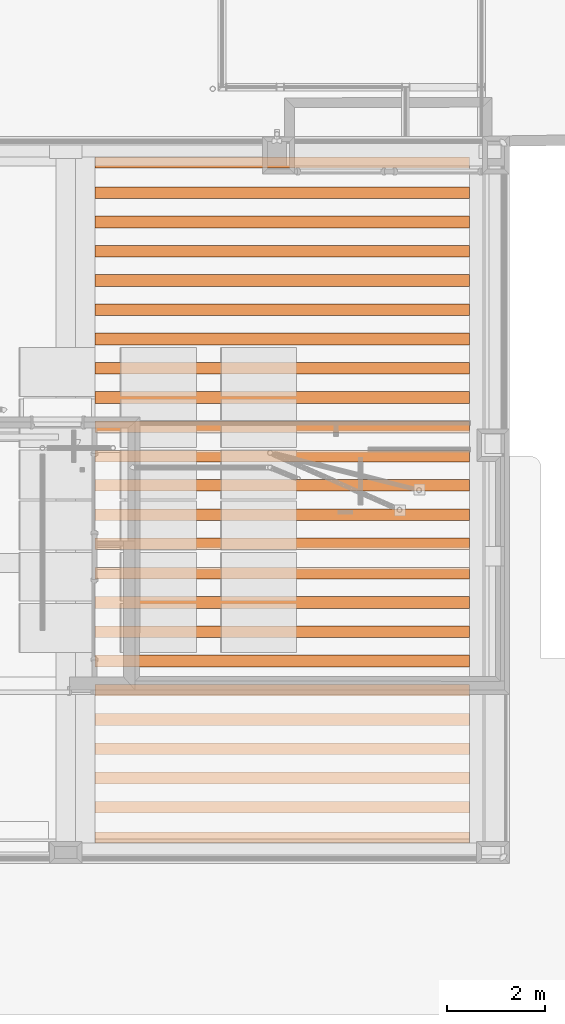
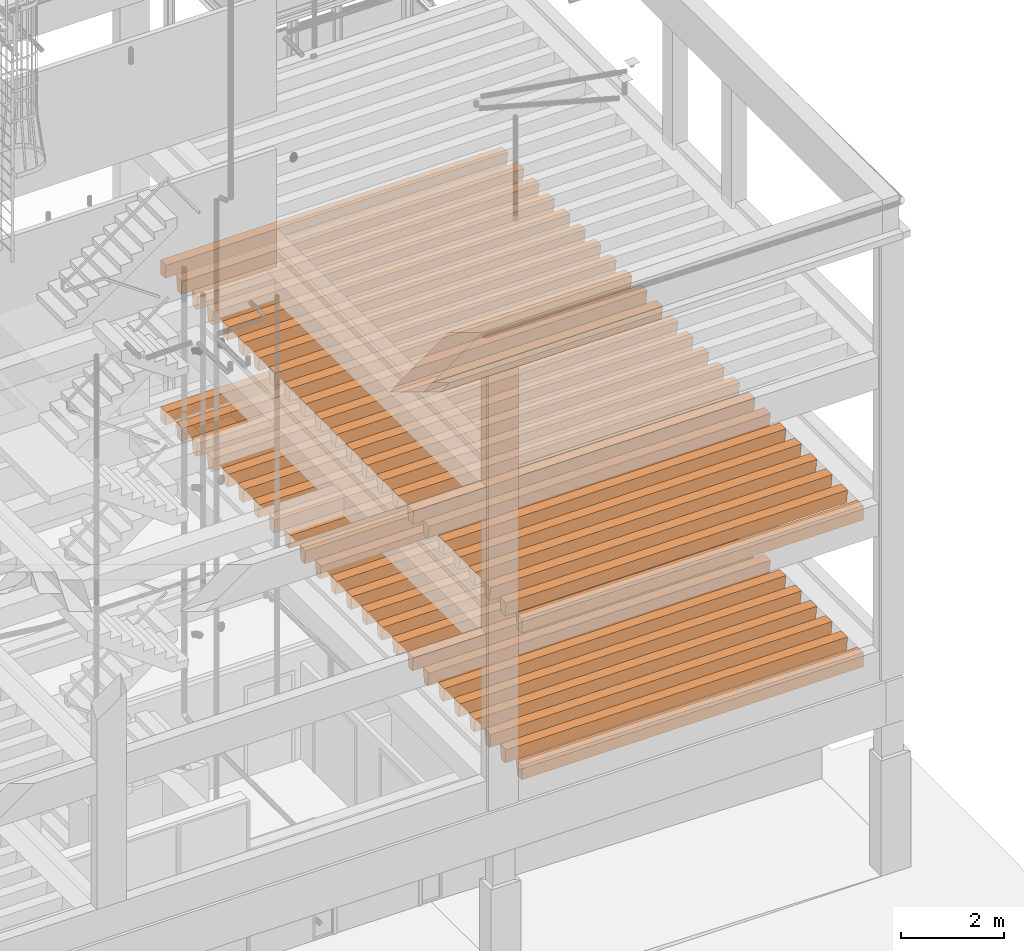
# One storey, part 105 of 106: 2 proxies.
"""IFC2X3 building model written with IfcOpenShell, lengths in metres."""

from ifc_helpers import new_model, entity, si_unit, converted_unit, derived_unit, money_unit, direction, frame, origin_with_axes, place, context, subcontext, project, spatial, faceted_brep, element, save


model = new_model("IFC2X3")

# Units and contexts
model_context = context("Model", 3, precision=1e-05, world=origin_with_axes(), true_north=direction((0.0, 1.0)))
body_context = subcontext(model_context, "Body", "Model", "MODEL_VIEW", scale=1.0)
ifc_project = project(units=[si_unit("LENGTHUNIT", "METRE"), si_unit("AREAUNIT", "SQUARE_METRE"), si_unit("VOLUMEUNIT", "CUBIC_METRE"), si_unit("ABSORBEDDOSEUNIT", "GRAY"), si_unit("AMOUNTOFSUBSTANCEUNIT", "MOLE"), si_unit("DOSEEQUIVALENTUNIT", "SIEVERT"), si_unit("ELECTRICCAPACITANCEUNIT", "FARAD"), si_unit("ELECTRICCHARGEUNIT", "COULOMB"), si_unit("ELECTRICCONDUCTANCEUNIT", "SIEMENS"), si_unit("ELECTRICCURRENTUNIT", "AMPERE"), si_unit("ELECTRICRESISTANCEUNIT", "OHM"), si_unit("ELECTRICVOLTAGEUNIT", "VOLT"), si_unit("ENERGYUNIT", "JOULE"), si_unit("FORCEUNIT", "NEWTON"), si_unit("FREQUENCYUNIT", "HERTZ"), si_unit("ILLUMINANCEUNIT", "LUX"), si_unit("INDUCTANCEUNIT", "HENRY"), si_unit("LUMINOUSFLUXUNIT", "LUMEN"), si_unit("LUMINOUSINTENSITYUNIT", "CANDELA"), si_unit("MAGNETICFLUXDENSITYUNIT", "TESLA"), si_unit("MAGNETICFLUXUNIT", "WEBER"), si_unit("MASSUNIT", "GRAM"), converted_unit("PLANEANGLEUNIT", "degree", entity("IfcReal", 0.0174532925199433), si_unit("PLANEANGLEUNIT", "RADIAN"), dimensions=[0, 0, 0, 0, 0, 0, 0]), si_unit("POWERUNIT", "WATT"), si_unit("PRESSUREUNIT", "PASCAL"), si_unit("RADIOACTIVITYUNIT", "BECQUEREL"), si_unit("SOLIDANGLEUNIT", "STERADIAN"), si_unit("THERMODYNAMICTEMPERATUREUNIT", "KELVIN"), si_unit("TIMEUNIT", "SECOND"), derived_unit("ACCELERATIONUNIT", [(si_unit("LENGTHUNIT", "METRE"), 1), (si_unit("TIMEUNIT", "SECOND"), -2)]), derived_unit("ANGULARVELOCITYUNIT", [(converted_unit("PLANEANGLEUNIT", "degree", entity("IfcReal", 0.0174532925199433), si_unit("PLANEANGLEUNIT", "RADIAN"), dimensions=[0, 0, 0, 0, 0, 0, 0]), 1), (si_unit("TIMEUNIT", "SECOND"), -1)]), derived_unit("CURVATUREUNIT", [(converted_unit("PLANEANGLEUNIT", "degree", entity("IfcReal", 0.0174532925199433), si_unit("PLANEANGLEUNIT", "RADIAN"), dimensions=[0, 0, 0, 0, 0, 0, 0]), 1), (si_unit("LENGTHUNIT", "METRE"), -1)]), derived_unit("DYNAMICVISCOSITYUNIT", [(si_unit("PRESSUREUNIT", "PASCAL"), 1), (si_unit("TIMEUNIT", "SECOND"), 1)]), derived_unit("HEATFLUXDENSITYUNIT", [(si_unit("POWERUNIT", "WATT"), 1), (si_unit("LENGTHUNIT", "METRE"), -2)]), derived_unit("HEATINGVALUEUNIT", [(si_unit("ENERGYUNIT", "JOULE"), 1), (si_unit("MASSUNIT", "GRAM"), -1)]), derived_unit("INTEGERCOUNTRATEUNIT", [(si_unit("TIMEUNIT", "SECOND"), -1)]), derived_unit("IONCONCENTRATIONUNIT", [(si_unit("MASSUNIT", "GRAM"), 1), (si_unit("VOLUMEUNIT", "CUBIC_METRE"), -1)]), derived_unit("ISOTHERMALMOISTURECAPACITYUNIT", [(si_unit("VOLUMEUNIT", "CUBIC_METRE"), 1), (si_unit("MASSUNIT", "GRAM"), -1)]), derived_unit("KINEMATICVISCOSITYUNIT", [(si_unit("AREAUNIT", "SQUARE_METRE"), 1), (si_unit("TIMEUNIT", "SECOND"), -1)]), derived_unit("LINEARFORCEUNIT", [(si_unit("FORCEUNIT", "NEWTON"), 1), (si_unit("LENGTHUNIT", "METRE"), -1)]), derived_unit("LINEARMOMENTUNIT", [(si_unit("FORCEUNIT", "NEWTON"), 1), (si_unit("LENGTHUNIT", "METRE"), -1)]), derived_unit("LINEARSTIFFNESSUNIT", [(si_unit("FORCEUNIT", "NEWTON"), 1), (si_unit("LENGTHUNIT", "METRE"), -1)]), derived_unit("LINEARVELOCITYUNIT", [(si_unit("LENGTHUNIT", "METRE"), 1), (si_unit("TIMEUNIT", "SECOND"), -1)]), derived_unit("LUMINOUSINTENSITYDISTRIBUTIONUNIT", [(si_unit("LUMINOUSINTENSITYUNIT", "CANDELA"), 1), (si_unit("LUMINOUSFLUXUNIT", "LUMEN"), -1)]), derived_unit("MASSDENSITYUNIT", [(si_unit("MASSUNIT", "GRAM"), 1), (si_unit("VOLUMEUNIT", "CUBIC_METRE"), -1)]), derived_unit("MASSFLOWRATEUNIT", [(si_unit("MASSUNIT", "GRAM"), 1), (si_unit("TIMEUNIT", "SECOND"), -1)]), derived_unit("MASSPERLENGTHUNIT", [(si_unit("MASSUNIT", "GRAM"), 1), (si_unit("LENGTHUNIT", "METRE"), -1)]), derived_unit("MODULUSOFELASTICITYUNIT", [(si_unit("FORCEUNIT", "NEWTON"), 1), (si_unit("AREAUNIT", "SQUARE_METRE"), -1)]), derived_unit("MODULUSOFLINEARSUBGRADEREACTIONUNIT", [(si_unit("FORCEUNIT", "NEWTON"), 1), (si_unit("LENGTHUNIT", "METRE"), -2)]), derived_unit("MODULUSOFROTATIONALSUBGRADEREACTIONUNIT", [(si_unit("FORCEUNIT", "NEWTON"), 1), (si_unit("LENGTHUNIT", "METRE"), 1)]), derived_unit("MODULUSOFSUBGRADEREACTIONUNIT", [(si_unit("FORCEUNIT", "NEWTON"), 1), (si_unit("VOLUMEUNIT", "CUBIC_METRE"), -1)]), derived_unit("MOISTUREDIFFUSIVITYUNIT", [(si_unit("VOLUMEUNIT", "CUBIC_METRE"), 1), (si_unit("TIMEUNIT", "SECOND"), -1)]), derived_unit("MOLECULARWEIGHTUNIT", [(si_unit("MASSUNIT", "GRAM"), 1), (si_unit("AMOUNTOFSUBSTANCEUNIT", "MOLE"), -1)]), derived_unit("PLANARFORCEUNIT", [(si_unit("FORCEUNIT", "NEWTON"), 1), (si_unit("LENGTHUNIT", "METRE"), -2)]), derived_unit("ROTATIONALFREQUENCYUNIT", [(si_unit("TIMEUNIT", "SECOND"), -1)]), derived_unit("ROTATIONALMASSUNIT", [(si_unit("MASSUNIT", "GRAM"), 1), (si_unit("LENGTHUNIT", "METRE"), 2)]), derived_unit("ROTATIONALSTIFFNESSUNIT", [(si_unit("FORCEUNIT", "NEWTON"), 1), (si_unit("LENGTHUNIT", "METRE"), 1), (converted_unit("PLANEANGLEUNIT", "degree", entity("IfcReal", 0.0174532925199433), si_unit("PLANEANGLEUNIT", "RADIAN"), dimensions=[0, 0, 0, 0, 0, 0, 0]), -1)]), derived_unit("SECTIONAREAINTEGRALUNIT", [(si_unit("LENGTHUNIT", "METRE"), 5)]), derived_unit("SECTIONMODULUSUNIT", [(si_unit("LENGTHUNIT", "METRE"), 3)]), derived_unit("SHEARMODULUSUNIT", [(si_unit("FORCEUNIT", "NEWTON"), 1), (si_unit("AREAUNIT", "SQUARE_METRE"), -1)]), derived_unit("SOUNDPOWERUNIT", [(si_unit("ENERGYUNIT", "JOULE"), 1), (si_unit("TIMEUNIT", "SECOND"), -1)]), derived_unit("SPECIFICHEATCAPACITYUNIT", [(si_unit("FORCEUNIT", "NEWTON"), 1), (si_unit("MASSUNIT", "GRAM"), -1), (si_unit("THERMODYNAMICTEMPERATUREUNIT", "KELVIN"), -1)]), derived_unit("TEMPERATUREGRADIENTUNIT", [(si_unit("THERMODYNAMICTEMPERATUREUNIT", "KELVIN"), 1), (si_unit("LENGTHUNIT", "METRE"), -1)]), derived_unit("THERMALADMITTANCEUNIT", [(si_unit("POWERUNIT", "WATT"), 1), (si_unit("AREAUNIT", "SQUARE_METRE"), -1), (si_unit("THERMODYNAMICTEMPERATUREUNIT", "KELVIN"), -1)]), derived_unit("THERMALCONDUCTANCEUNIT", [(si_unit("POWERUNIT", "WATT"), 1), (si_unit("LENGTHUNIT", "METRE"), -1), (si_unit("THERMODYNAMICTEMPERATUREUNIT", "KELVIN"), -1)]), derived_unit("THERMALEXPANSIONCOEFFICIENTUNIT", [(si_unit("THERMODYNAMICTEMPERATUREUNIT", "KELVIN"), -1)]), derived_unit("THERMALRESISTANCEUNIT", [(si_unit("AREAUNIT", "SQUARE_METRE"), 1), (si_unit("POWERUNIT", "WATT"), -1)]), derived_unit("THERMALTRANSMITTANCEUNIT", [(si_unit("POWERUNIT", "WATT"), 1), (si_unit("AREAUNIT", "SQUARE_METRE"), -1), (si_unit("THERMODYNAMICTEMPERATUREUNIT", "KELVIN"), -1)]), derived_unit("TORQUEUNIT", [(si_unit("FORCEUNIT", "NEWTON"), 1), (si_unit("LENGTHUNIT", "METRE"), 1)]), derived_unit("VAPORPERMEABILITYUNIT", [(si_unit("MASSUNIT", "GRAM"), 1), (si_unit("TIMEUNIT", "SECOND"), -1)]), derived_unit("VOLUMETRICFLOWRATEUNIT", [(si_unit("VOLUMEUNIT", "CUBIC_METRE"), 1), (si_unit("TIMEUNIT", "SECOND"), -1)]), derived_unit("WARPINGCONSTANTUNIT", [(si_unit("LENGTHUNIT", "METRE"), 6)]), derived_unit("WARPINGMOMENTUNIT", [(si_unit("FORCEUNIT", "NEWTON"), 1), (si_unit("LENGTHUNIT", "METRE"), 2)]), money_unit("GBP")], contexts=[model_context])

# Site, building, storey
site_placement = place(None, origin_with_axes())
site = spatial("IfcSite", under=ifc_project, at=site_placement, Name="Site", CompositionType="ELEMENT")
building_placement = place(site_placement, origin_with_axes())
building = spatial("IfcBuilding", under=site, at=building_placement, Name="Building01", CompositionType="ELEMENT")
storey_placement = place(building_placement, origin_with_axes())
storey = spatial("IfcBuildingStorey", under=building, at=storey_placement, Name="GF", CompositionType="ELEMENT", Elevation=0.0)

# Proxies
proxy_1_placement = place(storey_placement, frame((22.321432, 7.45, 4.81), z_axis=(0.0, 0.0, 1.0), x_axis=(1.0, 0.0, 0.0)))
element("IfcBuildingElementProxy", 1, at=proxy_1_placement, inside=storey, context=body_context, shape_type="Brep", body=[
    faceted_brep([(-3.838569, -7.03, -0.17), (3.838568, -7.03, -0.17), (3.838568, -7.03, 0.17), (-3.838569, -7.03, 0.17), (-3.838569, -6.858571, -0.17), (3.838568, -6.858571, -0.17), (-3.838569, -6.81, 0.17), (3.838568, -6.81, 0.17)], [[[0, 1, 2, 3]], [[4, 5, 1, 0]], [[6, 7, 5, 4]], [[3, 2, 7, 6]], [[1, 5, 7, 2]], [[3, 6, 4, 0]]]),
    faceted_brep([(-3.838569, 1.428572, -0.17), (3.838568, 1.428572, -0.17), (3.838568, 1.38, 0.17), (-3.838569, 1.38, 0.17), (-3.838569, 1.571429, -0.17), (3.838568, 1.571429, -0.17), (-3.838569, 1.62, 0.17), (3.838568, 1.62, 0.17)], [[[0, 1, 2, 3]], [[4, 5, 1, 0]], [[6, 7, 5, 4]], [[3, 2, 7, 6]], [[1, 5, 7, 2]], [[3, 6, 4, 0]]]),
    faceted_brep([(-3.838569, 0.828572, -0.17), (3.838568, 0.828572, -0.17), (3.838568, 0.78, 0.17), (-3.838569, 0.78, 0.17), (-3.838569, 0.971429, -0.17), (3.838568, 0.971429, -0.17), (-3.838569, 1.02, 0.17), (3.838568, 1.02, 0.17)], [[[0, 1, 2, 3]], [[4, 5, 1, 0]], [[6, 7, 5, 4]], [[3, 2, 7, 6]], [[1, 5, 7, 2]], [[3, 6, 4, 0]]]),
    faceted_brep([(-3.838569, -0.371428, -0.17), (3.838568, -0.371428, -0.17), (3.838568, -0.42, 0.17), (-3.838569, -0.42, 0.17), (-3.838569, -0.228571, -0.17), (3.838568, -0.228571, -0.17), (-3.838569, -0.18, 0.17), (3.838568, -0.18, 0.17)], [[[0, 1, 2, 3]], [[4, 5, 1, 0]], [[6, 7, 5, 4]], [[3, 2, 7, 6]], [[1, 5, 7, 2]], [[3, 6, 4, 0]]]),
    faceted_brep([(-3.838569, -0.971428, -0.17), (3.838568, -0.971428, -0.17), (3.838568, -1.02, 0.17), (-3.838569, -1.02, 0.17), (-3.838569, -0.828571, -0.17), (3.838568, -0.828571, -0.17), (-3.838569, -0.78, 0.17), (3.838568, -0.78, 0.17)], [[[0, 1, 2, 3]], [[4, 5, 1, 0]], [[6, 7, 5, 4]], [[3, 2, 7, 6]], [[1, 5, 7, 2]], [[3, 6, 4, 0]]]),
    faceted_brep([(-3.838569, 0.228572, -0.17), (3.838568, 0.228572, -0.17), (3.838568, 0.18, 0.17), (-3.838569, 0.18, 0.17), (-3.838569, 0.371429, -0.17), (3.838568, 0.371429, -0.17), (-3.838569, 0.42, 0.17), (3.838568, 0.42, 0.17)], [[[0, 1, 2, 3]], [[4, 5, 1, 0]], [[6, 7, 5, 4]], [[3, 2, 7, 6]], [[1, 5, 7, 2]], [[3, 6, 4, 0]]]),
    faceted_brep([(-3.838569, -2.171428, -0.17), (3.838568, -2.171428, -0.17), (3.838568, -2.22, 0.17), (-3.838569, -2.22, 0.17), (-3.838569, -2.028571, -0.17), (3.838568, -2.028571, -0.17), (-3.838569, -1.98, 0.17), (3.838568, -1.98, 0.17)], [[[0, 1, 2, 3]], [[4, 5, 1, 0]], [[6, 7, 5, 4]], [[3, 2, 7, 6]], [[1, 5, 7, 2]], [[3, 6, 4, 0]]]),
    faceted_brep([(-3.838569, -2.771428, -0.17), (3.838568, -2.771428, -0.17), (3.838568, -2.82, 0.17), (-3.838569, -2.82, 0.17), (-3.838569, -2.628571, -0.17), (3.838568, -2.628571, -0.17), (-3.838569, -2.58, 0.17), (3.838568, -2.58, 0.17)], [[[0, 1, 2, 3]], [[4, 5, 1, 0]], [[6, 7, 5, 4]], [[3, 2, 7, 6]], [[1, 5, 7, 2]], [[3, 6, 4, 0]]]),
    faceted_brep([(-3.838569, -1.571428, -0.17), (3.838568, -1.571428, -0.17), (3.838568, -1.62, 0.17), (-3.838569, -1.62, 0.17), (-3.838569, -1.428571, -0.17), (3.838568, -1.428571, -0.17), (-3.838569, -1.38, 0.17), (3.838568, -1.38, 0.17)], [[[0, 1, 2, 3]], [[4, 5, 1, 0]], [[6, 7, 5, 4]], [[3, 2, 7, 6]], [[1, 5, 7, 2]], [[3, 6, 4, 0]]]),
    faceted_brep([(-3.838569, -3.971428, -0.17), (3.838568, -3.971428, -0.17), (3.838568, -4.02, 0.17), (-3.838569, -4.02, 0.17), (-3.838569, -3.828571, -0.17), (3.838568, -3.828571, -0.17), (-3.838569, -3.78, 0.17), (3.838568, -3.78, 0.17)], [[[0, 1, 2, 3]], [[4, 5, 1, 0]], [[6, 7, 5, 4]], [[3, 2, 7, 6]], [[1, 5, 7, 2]], [[3, 6, 4, 0]]]),
    faceted_brep([(-3.838569, -4.571428, -0.17), (3.838568, -4.571428, -0.17), (3.838568, -4.62, 0.17), (-3.838569, -4.62, 0.17), (-3.838569, -4.428571, -0.17), (3.838568, -4.428571, -0.17), (-3.838569, -4.38, 0.17), (3.838568, -4.38, 0.17)], [[[0, 1, 2, 3]], [[4, 5, 1, 0]], [[6, 7, 5, 4]], [[3, 2, 7, 6]], [[1, 5, 7, 2]], [[3, 6, 4, 0]]]),
    faceted_brep([(-3.838569, -3.371428, -0.17), (3.838568, -3.371428, -0.17), (3.838568, -3.42, 0.17), (-3.838569, -3.42, 0.17), (-3.838569, -3.228571, -0.17), (3.838568, -3.228571, -0.17), (-3.838569, -3.18, 0.17), (3.838568, -3.18, 0.17)], [[[0, 1, 2, 3]], [[4, 5, 1, 0]], [[6, 7, 5, 4]], [[3, 2, 7, 6]], [[1, 5, 7, 2]], [[3, 6, 4, 0]]]),
    faceted_brep([(-3.838569, -5.771428, -0.17), (3.838568, -5.771428, -0.17), (3.838568, -5.82, 0.17), (-3.838569, -5.82, 0.17), (-3.838569, -5.628571, -0.17), (3.838568, -5.628571, -0.17), (-3.838569, -5.58, 0.17), (3.838568, -5.58, 0.17)], [[[0, 1, 2, 3]], [[4, 5, 1, 0]], [[6, 7, 5, 4]], [[3, 2, 7, 6]], [[1, 5, 7, 2]], [[3, 6, 4, 0]]]),
    faceted_brep([(-3.838569, -6.371428, -0.17), (3.838568, -6.371428, -0.17), (3.838568, -6.42, 0.17), (-3.838569, -6.42, 0.17), (-3.838569, -6.228571, -0.17), (3.838568, -6.228571, -0.17), (-3.838569, -6.18, 0.17), (3.838568, -6.18, 0.17)], [[[0, 1, 2, 3]], [[4, 5, 1, 0]], [[6, 7, 5, 4]], [[3, 2, 7, 6]], [[1, 5, 7, 2]], [[3, 6, 4, 0]]]),
    faceted_brep([(-3.838569, -5.171428, -0.17), (3.838568, -5.171428, -0.17), (3.838568, -5.22, 0.17), (-3.838569, -5.22, 0.17), (-3.838569, -5.028571, -0.17), (3.838568, -5.028571, -0.17), (-3.838569, -4.98, 0.17), (3.838568, -4.98, 0.17)], [[[0, 1, 2, 3]], [[4, 5, 1, 0]], [[6, 7, 5, 4]], [[3, 2, 7, 6]], [[1, 5, 7, 2]], [[3, 6, 4, 0]]]),
    faceted_brep([(-3.838569, 7.03, 0.17), (3.838568, 7.03, 0.17), (3.838568, 7.03, -0.17), (-3.838569, 7.03, -0.17), (-3.838569, 6.81, 0.17), (3.838568, 6.81, 0.17), (-3.838569, 6.858572, -0.17), (3.838568, 6.858572, -0.17)], [[[0, 1, 2, 3]], [[4, 5, 1, 0]], [[6, 7, 5, 4]], [[3, 2, 7, 6]], [[1, 5, 7, 2]], [[3, 6, 4, 0]]]),
    faceted_brep([(-3.838569, 5.028572, -0.17), (3.838568, 5.028572, -0.17), (3.838568, 4.98, 0.17), (-3.838569, 4.98, 0.17), (-3.838569, 5.171429, -0.17), (3.838568, 5.171429, -0.17), (-3.838569, 5.22, 0.17), (3.838568, 5.22, 0.17)], [[[0, 1, 2, 3]], [[4, 5, 1, 0]], [[6, 7, 5, 4]], [[3, 2, 7, 6]], [[1, 5, 7, 2]], [[3, 6, 4, 0]]]),
    faceted_brep([(-3.838569, 4.428572, -0.17), (3.838568, 4.428572, -0.17), (3.838568, 4.38, 0.17), (-3.838569, 4.38, 0.17), (-3.838569, 4.571429, -0.17), (3.838568, 4.571429, -0.17), (-3.838569, 4.62, 0.17), (3.838568, 4.62, 0.17)], [[[0, 1, 2, 3]], [[4, 5, 1, 0]], [[6, 7, 5, 4]], [[3, 2, 7, 6]], [[1, 5, 7, 2]], [[3, 6, 4, 0]]]),
    faceted_brep([(-3.838569, 6.228572, -0.17), (3.838568, 6.228572, -0.17), (3.838568, 6.18, 0.17), (-3.838569, 6.18, 0.17), (-3.838569, 6.371429, -0.17), (3.838568, 6.371429, -0.17), (-3.838569, 6.42, 0.17), (3.838568, 6.42, 0.17)], [[[0, 1, 2, 3]], [[4, 5, 1, 0]], [[6, 7, 5, 4]], [[3, 2, 7, 6]], [[1, 5, 7, 2]], [[3, 6, 4, 0]]]),
    faceted_brep([(-3.838569, 5.628572, -0.17), (3.838568, 5.628572, -0.17), (3.838568, 5.58, 0.17), (-3.838569, 5.58, 0.17), (-3.838569, 5.771429, -0.17), (3.838568, 5.771429, -0.17), (-3.838569, 5.82, 0.17), (3.838568, 5.82, 0.17)], [[[0, 1, 2, 3]], [[4, 5, 1, 0]], [[6, 7, 5, 4]], [[3, 2, 7, 6]], [[1, 5, 7, 2]], [[3, 6, 4, 0]]]),
    faceted_brep([(-3.838569, 3.228572, -0.17), (3.838568, 3.228572, -0.17), (3.838568, 3.18, 0.17), (-3.838569, 3.18, 0.17), (-3.838569, 3.371429, -0.17), (3.838568, 3.371429, -0.17), (-3.838569, 3.42, 0.17), (3.838568, 3.42, 0.17)], [[[0, 1, 2, 3]], [[4, 5, 1, 0]], [[6, 7, 5, 4]], [[3, 2, 7, 6]], [[1, 5, 7, 2]], [[3, 6, 4, 0]]]),
    faceted_brep([(-3.838569, 2.628572, -0.17), (3.838568, 2.628572, -0.17), (3.838568, 2.58, 0.17), (-3.838569, 2.58, 0.17), (-3.838569, 2.771429, -0.17), (3.838568, 2.771429, -0.17), (-3.838569, 2.82, 0.17), (3.838568, 2.82, 0.17)], [[[0, 1, 2, 3]], [[4, 5, 1, 0]], [[6, 7, 5, 4]], [[3, 2, 7, 6]], [[1, 5, 7, 2]], [[3, 6, 4, 0]]]),
    faceted_brep([(-3.838569, 3.828572, -0.17), (3.838568, 3.828572, -0.17), (3.838568, 3.78, 0.17), (-3.838569, 3.78, 0.17), (-3.838569, 3.971429, -0.17), (3.838568, 3.971429, -0.17), (-3.838569, 4.02, 0.17), (3.838568, 4.02, 0.17)], [[[0, 1, 2, 3]], [[4, 5, 1, 0]], [[6, 7, 5, 4]], [[3, 2, 7, 6]], [[1, 5, 7, 2]], [[3, 6, 4, 0]]]),
    faceted_brep([(-3.838569, 2.028572, -0.17), (3.838568, 2.028572, -0.17), (3.838568, 1.98, 0.17), (-3.838569, 1.98, 0.17), (-3.838569, 2.171429, -0.17), (3.838568, 2.171429, -0.17), (-3.838569, 2.22, 0.17), (3.838568, 2.22, 0.17)], [[[0, 1, 2, 3]], [[4, 5, 1, 0]], [[6, 7, 5, 4]], [[3, 2, 7, 6]], [[1, 5, 7, 2]], [[3, 6, 4, 0]]]),
])
proxy_2_placement = place(storey_placement, frame((22.321432, 7.45, 8.3), z_axis=(0.0, 0.0, 1.0), x_axis=(1.0, 0.0, 0.0)))
element("IfcBuildingElementProxy", 2, at=proxy_2_placement, inside=storey, context=body_context, shape_type="Brep", body=[
    faceted_brep([(-3.838569, -7.03, -0.17), (3.838568, -7.03, -0.17), (3.838568, -7.03, 0.17), (-3.838569, -7.03, 0.17), (-3.838569, -6.858571, -0.17), (3.838568, -6.858571, -0.17), (-3.838569, -6.81, 0.17), (3.838568, -6.81, 0.17)], [[[0, 1, 2, 3]], [[4, 5, 1, 0]], [[6, 7, 5, 4]], [[3, 2, 7, 6]], [[1, 5, 7, 2]], [[3, 6, 4, 0]]]),
    faceted_brep([(-3.838569, 1.428572, -0.17), (3.838568, 1.428572, -0.17), (3.838568, 1.38, 0.17), (-3.838569, 1.38, 0.17), (-3.838569, 1.571429, -0.17), (3.838568, 1.571429, -0.17), (-3.838569, 1.62, 0.17), (3.838568, 1.62, 0.17)], [[[0, 1, 2, 3]], [[4, 5, 1, 0]], [[6, 7, 5, 4]], [[3, 2, 7, 6]], [[1, 5, 7, 2]], [[3, 6, 4, 0]]]),
    faceted_brep([(-3.838569, 0.828572, -0.17), (3.838568, 0.828572, -0.17), (3.838568, 0.78, 0.17), (-3.838569, 0.78, 0.17), (-3.838569, 0.971429, -0.17), (3.838568, 0.971429, -0.17), (-3.838569, 1.02, 0.17), (3.838568, 1.02, 0.17)], [[[0, 1, 2, 3]], [[4, 5, 1, 0]], [[6, 7, 5, 4]], [[3, 2, 7, 6]], [[1, 5, 7, 2]], [[3, 6, 4, 0]]]),
    faceted_brep([(-3.838569, -0.371428, -0.17), (3.838568, -0.371428, -0.17), (3.838568, -0.42, 0.17), (-3.838569, -0.42, 0.17), (-3.838569, -0.228571, -0.17), (3.838568, -0.228571, -0.17), (-3.838569, -0.18, 0.17), (3.838568, -0.18, 0.17)], [[[0, 1, 2, 3]], [[4, 5, 1, 0]], [[6, 7, 5, 4]], [[3, 2, 7, 6]], [[1, 5, 7, 2]], [[3, 6, 4, 0]]]),
    faceted_brep([(-3.838569, -0.971428, -0.17), (3.838568, -0.971428, -0.17), (3.838568, -1.02, 0.17), (-3.838569, -1.02, 0.17), (-3.838569, -0.828571, -0.17), (3.838568, -0.828571, -0.17), (-3.838569, -0.78, 0.17), (3.838568, -0.78, 0.17)], [[[0, 1, 2, 3]], [[4, 5, 1, 0]], [[6, 7, 5, 4]], [[3, 2, 7, 6]], [[1, 5, 7, 2]], [[3, 6, 4, 0]]]),
    faceted_brep([(-3.838569, 0.228572, -0.17), (3.838568, 0.228572, -0.17), (3.838568, 0.18, 0.17), (-3.838569, 0.18, 0.17), (-3.838569, 0.371429, -0.17), (3.838568, 0.371429, -0.17), (-3.838569, 0.42, 0.17), (3.838568, 0.42, 0.17)], [[[0, 1, 2, 3]], [[4, 5, 1, 0]], [[6, 7, 5, 4]], [[3, 2, 7, 6]], [[1, 5, 7, 2]], [[3, 6, 4, 0]]]),
    faceted_brep([(-3.838569, -2.171428, -0.17), (3.838568, -2.171428, -0.17), (3.838568, -2.22, 0.17), (-3.838569, -2.22, 0.17), (-3.838569, -2.028571, -0.17), (3.838568, -2.028571, -0.17), (-3.838569, -1.98, 0.17), (3.838568, -1.98, 0.17)], [[[0, 1, 2, 3]], [[4, 5, 1, 0]], [[6, 7, 5, 4]], [[3, 2, 7, 6]], [[1, 5, 7, 2]], [[3, 6, 4, 0]]]),
    faceted_brep([(-3.838569, -2.771428, -0.17), (3.838568, -2.771428, -0.17), (3.838568, -2.82, 0.17), (-3.838569, -2.82, 0.17), (-3.838569, -2.628571, -0.17), (3.838568, -2.628571, -0.17), (-3.838569, -2.58, 0.17), (3.838568, -2.58, 0.17)], [[[0, 1, 2, 3]], [[4, 5, 1, 0]], [[6, 7, 5, 4]], [[3, 2, 7, 6]], [[1, 5, 7, 2]], [[3, 6, 4, 0]]]),
    faceted_brep([(-3.838569, -1.571428, -0.17), (3.838568, -1.571428, -0.17), (3.838568, -1.62, 0.17), (-3.838569, -1.62, 0.17), (-3.838569, -1.428571, -0.17), (3.838568, -1.428571, -0.17), (-3.838569, -1.38, 0.17), (3.838568, -1.38, 0.17)], [[[0, 1, 2, 3]], [[4, 5, 1, 0]], [[6, 7, 5, 4]], [[3, 2, 7, 6]], [[1, 5, 7, 2]], [[3, 6, 4, 0]]]),
    faceted_brep([(-3.838569, -3.971428, -0.17), (3.838568, -3.971428, -0.17), (3.838568, -4.02, 0.17), (-3.838569, -4.02, 0.17), (-3.838569, -3.828571, -0.17), (3.838568, -3.828571, -0.17), (-3.838569, -3.78, 0.17), (3.838568, -3.78, 0.17)], [[[0, 1, 2, 3]], [[4, 5, 1, 0]], [[6, 7, 5, 4]], [[3, 2, 7, 6]], [[1, 5, 7, 2]], [[3, 6, 4, 0]]]),
    faceted_brep([(-3.838569, -4.571428, -0.17), (3.838568, -4.571428, -0.17), (3.838568, -4.62, 0.17), (-3.838569, -4.62, 0.17), (-3.838569, -4.428571, -0.17), (3.838568, -4.428571, -0.17), (-3.838569, -4.38, 0.17), (3.838568, -4.38, 0.17)], [[[0, 1, 2, 3]], [[4, 5, 1, 0]], [[6, 7, 5, 4]], [[3, 2, 7, 6]], [[1, 5, 7, 2]], [[3, 6, 4, 0]]]),
    faceted_brep([(-3.838569, -3.371428, -0.17), (3.838568, -3.371428, -0.17), (3.838568, -3.42, 0.17), (-3.838569, -3.42, 0.17), (-3.838569, -3.228571, -0.17), (3.838568, -3.228571, -0.17), (-3.838569, -3.18, 0.17), (3.838568, -3.18, 0.17)], [[[0, 1, 2, 3]], [[4, 5, 1, 0]], [[6, 7, 5, 4]], [[3, 2, 7, 6]], [[1, 5, 7, 2]], [[3, 6, 4, 0]]]),
    faceted_brep([(-3.838569, -5.771428, -0.17), (3.838568, -5.771428, -0.17), (3.838568, -5.82, 0.17), (-3.838569, -5.82, 0.17), (-3.838569, -5.628571, -0.17), (3.838568, -5.628571, -0.17), (-3.838569, -5.58, 0.17), (3.838568, -5.58, 0.17)], [[[0, 1, 2, 3]], [[4, 5, 1, 0]], [[6, 7, 5, 4]], [[3, 2, 7, 6]], [[1, 5, 7, 2]], [[3, 6, 4, 0]]]),
    faceted_brep([(-3.838569, -6.371428, -0.17), (3.838568, -6.371428, -0.17), (3.838568, -6.42, 0.17), (-3.838569, -6.42, 0.17), (-3.838569, -6.228571, -0.17), (3.838568, -6.228571, -0.17), (-3.838569, -6.18, 0.17), (3.838568, -6.18, 0.17)], [[[0, 1, 2, 3]], [[4, 5, 1, 0]], [[6, 7, 5, 4]], [[3, 2, 7, 6]], [[1, 5, 7, 2]], [[3, 6, 4, 0]]]),
    faceted_brep([(-3.838569, -5.171428, -0.17), (3.838568, -5.171428, -0.17), (3.838568, -5.22, 0.17), (-3.838569, -5.22, 0.17), (-3.838569, -5.028571, -0.17), (3.838568, -5.028571, -0.17), (-3.838569, -4.98, 0.17), (3.838568, -4.98, 0.17)], [[[0, 1, 2, 3]], [[4, 5, 1, 0]], [[6, 7, 5, 4]], [[3, 2, 7, 6]], [[1, 5, 7, 2]], [[3, 6, 4, 0]]]),
    faceted_brep([(-3.838569, 7.03, 0.17), (3.838568, 7.03, 0.17), (3.838568, 7.03, -0.17), (-3.838569, 7.03, -0.17), (-3.838569, 6.81, 0.17), (3.838568, 6.81, 0.17), (-3.838569, 6.858572, -0.17), (3.838568, 6.858572, -0.17)], [[[0, 1, 2, 3]], [[4, 5, 1, 0]], [[6, 7, 5, 4]], [[3, 2, 7, 6]], [[1, 5, 7, 2]], [[3, 6, 4, 0]]]),
    faceted_brep([(-3.838569, 5.028572, -0.17), (3.838568, 5.028572, -0.17), (3.838568, 4.98, 0.17), (-3.838569, 4.98, 0.17), (-3.838569, 5.171429, -0.17), (3.838568, 5.171429, -0.17), (-3.838569, 5.22, 0.17), (3.838568, 5.22, 0.17)], [[[0, 1, 2, 3]], [[4, 5, 1, 0]], [[6, 7, 5, 4]], [[3, 2, 7, 6]], [[1, 5, 7, 2]], [[3, 6, 4, 0]]]),
    faceted_brep([(-3.838569, 4.428572, -0.17), (3.838568, 4.428572, -0.17), (3.838568, 4.38, 0.17), (-3.838569, 4.38, 0.17), (-3.838569, 4.571429, -0.17), (3.838568, 4.571429, -0.17), (-3.838569, 4.62, 0.17), (3.838568, 4.62, 0.17)], [[[0, 1, 2, 3]], [[4, 5, 1, 0]], [[6, 7, 5, 4]], [[3, 2, 7, 6]], [[1, 5, 7, 2]], [[3, 6, 4, 0]]]),
    faceted_brep([(-3.838569, 6.228572, -0.17), (3.838568, 6.228572, -0.17), (3.838568, 6.18, 0.17), (-3.838569, 6.18, 0.17), (-3.838569, 6.371429, -0.17), (3.838568, 6.371429, -0.17), (-3.838569, 6.42, 0.17), (3.838568, 6.42, 0.17)], [[[0, 1, 2, 3]], [[4, 5, 1, 0]], [[6, 7, 5, 4]], [[3, 2, 7, 6]], [[1, 5, 7, 2]], [[3, 6, 4, 0]]]),
    faceted_brep([(-3.838569, 5.628572, -0.17), (3.838568, 5.628572, -0.17), (3.838568, 5.58, 0.17), (-3.838569, 5.58, 0.17), (-3.838569, 5.771429, -0.17), (3.838568, 5.771429, -0.17), (-3.838569, 5.82, 0.17), (3.838568, 5.82, 0.17)], [[[0, 1, 2, 3]], [[4, 5, 1, 0]], [[6, 7, 5, 4]], [[3, 2, 7, 6]], [[1, 5, 7, 2]], [[3, 6, 4, 0]]]),
    faceted_brep([(-3.838569, 3.228572, -0.17), (3.838568, 3.228572, -0.17), (3.838568, 3.18, 0.17), (-3.838569, 3.18, 0.17), (-3.838569, 3.371429, -0.17), (3.838568, 3.371429, -0.17), (-3.838569, 3.42, 0.17), (3.838568, 3.42, 0.17)], [[[0, 1, 2, 3]], [[4, 5, 1, 0]], [[6, 7, 5, 4]], [[3, 2, 7, 6]], [[1, 5, 7, 2]], [[3, 6, 4, 0]]]),
    faceted_brep([(-3.838569, 2.628572, -0.17), (3.838568, 2.628572, -0.17), (3.838568, 2.58, 0.17), (-3.838569, 2.58, 0.17), (-3.838569, 2.771429, -0.17), (3.838568, 2.771429, -0.17), (-3.838569, 2.82, 0.17), (3.838568, 2.82, 0.17)], [[[0, 1, 2, 3]], [[4, 5, 1, 0]], [[6, 7, 5, 4]], [[3, 2, 7, 6]], [[1, 5, 7, 2]], [[3, 6, 4, 0]]]),
    faceted_brep([(-3.838569, 3.828572, -0.17), (3.838568, 3.828572, -0.17), (3.838568, 3.78, 0.17), (-3.838569, 3.78, 0.17), (-3.838569, 3.971429, -0.17), (3.838568, 3.971429, -0.17), (-3.838569, 4.02, 0.17), (3.838568, 4.02, 0.17)], [[[0, 1, 2, 3]], [[4, 5, 1, 0]], [[6, 7, 5, 4]], [[3, 2, 7, 6]], [[1, 5, 7, 2]], [[3, 6, 4, 0]]]),
    faceted_brep([(-3.838569, 2.028572, -0.17), (3.838568, 2.028572, -0.17), (3.838568, 1.98, 0.17), (-3.838569, 1.98, 0.17), (-3.838569, 2.171429, -0.17), (3.838568, 2.171429, -0.17), (-3.838569, 2.22, 0.17), (3.838568, 2.22, 0.17)], [[[0, 1, 2, 3]], [[4, 5, 1, 0]], [[6, 7, 5, 4]], [[3, 2, 7, 6]], [[1, 5, 7, 2]], [[3, 6, 4, 0]]]),
])

save(model, "model.ifc")
